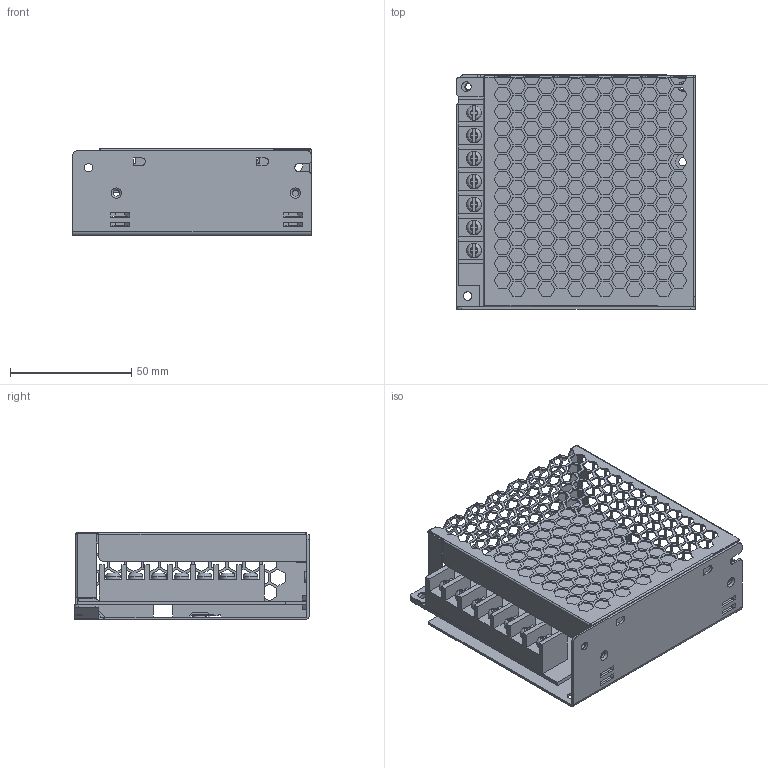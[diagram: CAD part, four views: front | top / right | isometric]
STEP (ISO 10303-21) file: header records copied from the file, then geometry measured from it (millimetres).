
FILE_DESCRIPTION((''),'2;1');
FILE_NAME('C:\Users\shirley\Desktop\RD-50.stp','2021-07-28T16:22:51',('shirley'),(''),'Autodesk Inventor 2010','Autodesk Inventor 2010','');
FILE_SCHEMA(('AUTOMOTIVE_DESIGN { 1 0 10303 214 1 1 1 1 }'));
Length unit declared in the file: millimetre
Products named in the file (5): RD-50; RD-50-D; RD-50-T; PCB; TN
Assembly tree (4 placements, depth 2):
  RD-50
    RD-50-D
    RD-50-T
    PCB
    TN
Bounding box: 98.5 x 97 x 35.9 mm (x, y, z)
Volume: 41222.5 mm3; surface area: 69830.2 mm2
Topology: 4 solids, 4 shells, 2111 faces, 6280 edges, 4212 vertices
Faces by surface type: plane 1964, cylinder 111, bspline 28, torus 8
Full cylindrical faces by diameter (mm): 2.65 x6, 3.3 x1, 3.5 x2, 4 x3, 4.27 x4, 6 x7
Entity records: 72001 total; most frequent: CARTESIAN_POINT 14102, ORIENTED_EDGE 12364, DIRECTION 10647, EDGE_CURVE 6182, VECTOR 5891, LINE 5891, VERTEX_POINT 4097, EDGE_LOOP 2705
